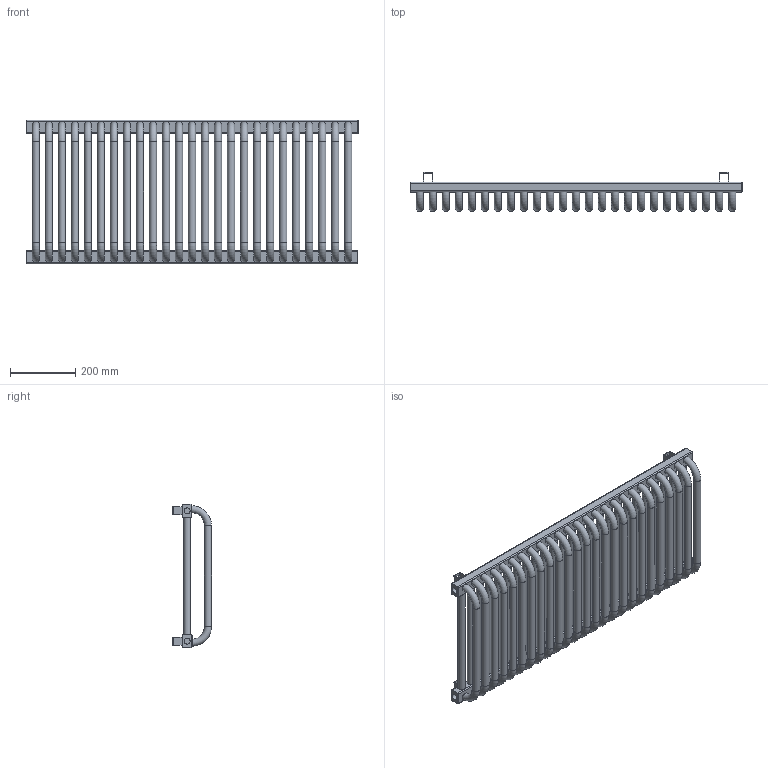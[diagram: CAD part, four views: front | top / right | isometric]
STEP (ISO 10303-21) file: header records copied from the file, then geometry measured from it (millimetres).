
FILE_DESCRIPTION((''),'2;1');
FILE_NAME('Z:\R\G\P\RGPH03 - Grzejnik Dobus\Work\Inventor\Marketing\STEP\DF-44-10-L6.stp','2012-07-25T11:19:30',('PioRo'),(''),'Autodesk Inventor 2012','Autodesk Inventor 2012','');
FILE_SCHEMA(('AUTOMOTIVE_DESIGN { 1 0 10303 214 1 1 1 1 }'));
Length unit declared in the file: millimetre
Products named in the file (1): Część1
Bounding box: 1020 x 120 x 440 mm (x, y, z)
Volume: 10275238.6 mm3; surface area: 1686114.4 mm2
Topology: 5 solids, 5 shells, 250 faces, 623 edges, 388 vertices
Faces by surface type: cylinder 105, plane 79, torus 66
Full cylindrical faces by diameter (mm): 0.1 x4, 18.631 x3, 22 x50
Entity records: 10513 total; most frequent: CARTESIAN_POINT 4405, DIRECTION 1194, ORIENTED_EDGE 1032, EDGE_CURVE 516, AXIS2_PLACEMENT_3D 477, EDGE_LOOP 468, VERTEX_POINT 388, FACE_OUTER_BOUND 250
